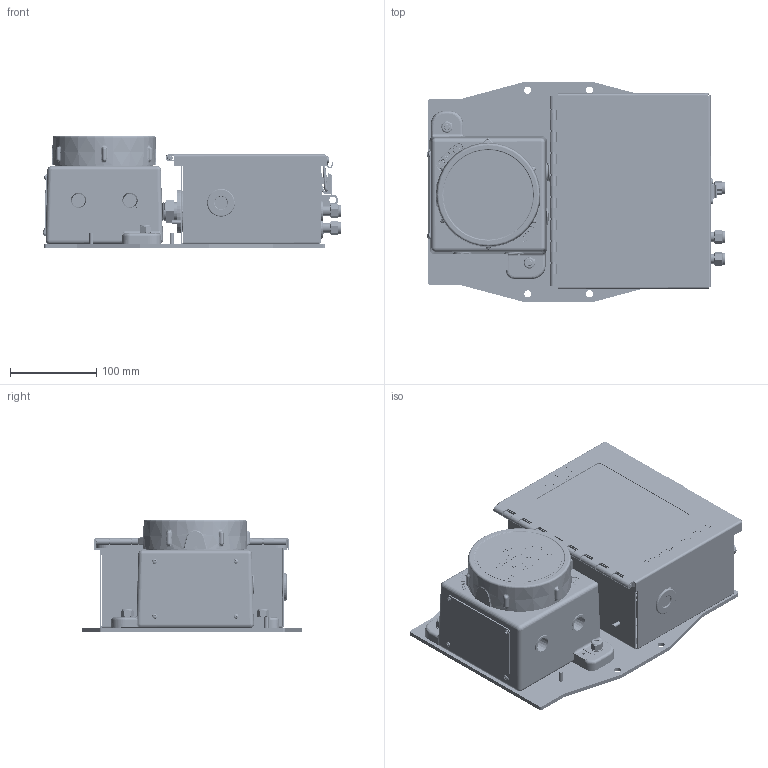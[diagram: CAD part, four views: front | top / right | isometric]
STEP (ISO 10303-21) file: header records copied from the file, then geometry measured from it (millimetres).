
FILE_DESCRIPTION (( 'STEP AP214' ), '1' );
FILE_NAME ('4DOD3102A.STEP', '2021-09-20T14:34:33', ( '' ), ( '' ), 'SwSTEP 2.0', 'SolidWorks 2020', '' );
FILE_SCHEMA (( 'AUTOMOTIVE_DESIGN' ));
Length unit declared in the file: inch
Products named in the file (121): 1ORG36_9464K83; 4PCB151; 4BLK66_DOD; 2BRK153P^4BRK153; 4EXP20; 2RTR01; 1LTC04; 4SEN21; 2MEM85_NO RIBBON; 4PCB174; 2VLV21; 2PCB80; 4LAB125_DOD; 2BRK149_Long; 4CAS111; 2SEN label_applied; 2PCB109; 2BRK151; 4LAB134; 2BLK69; 1SPC06_94639A490; 4BRK155P^4BRK155; 2BRK225P^4BRK225; 2KNB07; 1NUT13; 1RIV03; 1FIT15; Epoxy^2BLK207; 2DSK03; 1FLM04; BSO-632-20; 2CAS108_2CAS108; 2CBC04; 2EXP20_BODY; 4PCB177; 2BRK155; 3CON102; 4TND06_sensor only; 2WIN01; 2CAS99p^4CAS108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
Assembly tree (181 placements, depth 5):
  2LAB134S^4LAB134
  2EXP20P^4EXP20
  4DOD3102A
    4CAS111
      4CAS108
        2CAS108_2CAS108
        2CAS99p^4CAS108
        2CAS99S^4CAS108
      4DOR08
        2WIN01
        2SEL10
        1RIV02  x2
        4CAS107_DOD
          2CAS101_DOD<As Machined>
        1LTC02A
      2HIN04
      1LTC04
      1RIV03  x2
    4BLK66_DOD
      2BLK66_DOD
      1FIT15  x3
        1FIT15-1
        1FIT15-3
        1FIT15-4
        1FIT15-2
      1FLM04
      1SCR78_93615A210  x4
      2KNB05
      2KNB07
      2VLV21
      2STR02
      4CBC04
        2CBC04
        1FIL11  x4
        2RTR01  x4
      4SEN21
        2SEN21
        1ORG36_9464K83
        2PCB80
        2BLK38
        3CON20  x4
        2DSK03
        2SEN label_applied
      4TND06_sensor only
        3TND06
    4BRK149
      2BRK149_Long
        2BRK149
        BSO-632-20  x2
        SSS-156-20  x2
        TPS-125-6  x3
      2BRK149P^4BRK149
    4LCD10
      4PCB174
        4PCB174
        3LCD10
      4PCB177
      1SPC06_94639A490  x4
      1SCR28_92196A112  x4
      1NUT03_91831A005  x4
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Bounding box: 345.64 x 254.85 x 130.61 mm (x, y, z)
Volume: 2707703.3 mm3; surface area: 1559582.6 mm2
Topology: 555 solids, 574 shells, 17471 faces, 42489 edges, 26921 vertices
Faces by surface type: plane 11051, cylinder 3291, bspline 1917, cone 842, torus 285, sphere 85
Full cylindrical faces by diameter (mm): 0.508 x13, 0.635 x4, 0.65 x40, 0.762 x2, 0.838 x3, 0.889 x48, 0.92 x4, 1 x2, 1.016 x76, 1.143 x2, 1.168 x2, 1.194 x16, 1.27 x2, 1.397 x12, 1.4 x3, 1.524 x9, 1.651 x4, 1.702 x4, 1.778 x3, 1.816 x4, 2.007 x4, 2.07 x4, 2.261 x4, 2.295 x4, 2.299 x4, 2.337 x2, 2.387 x16, 2.393 x6, 2.413 x2, 2.469 x7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
Entity records: 545565 total; most frequent: CARTESIAN_POINT 173170, ORIENTED_EDGE 66180, DIRECTION 60196, EDGE_CURVE 33120, LINE 24416, VECTOR 24416, VERTEX_POINT 21669, AXIS2_PLACEMENT_3D 17890
